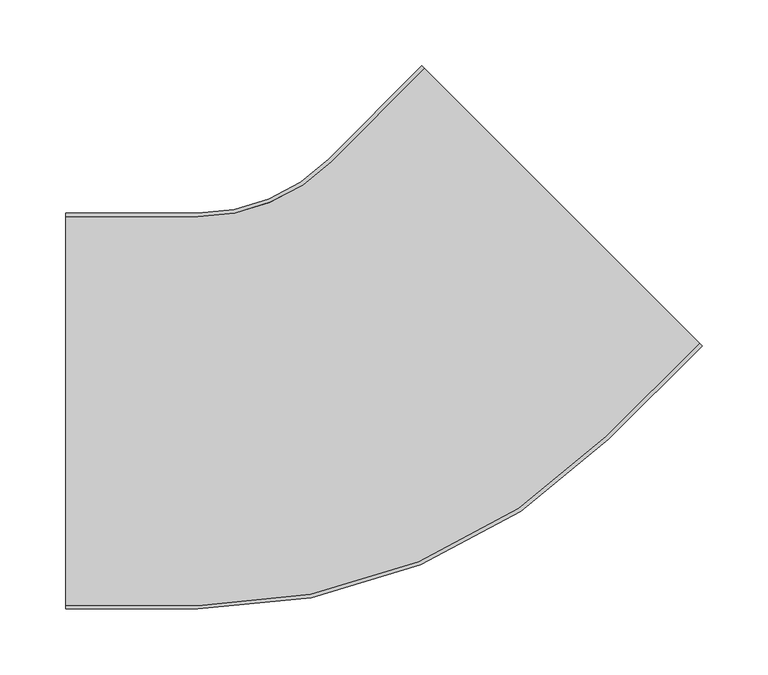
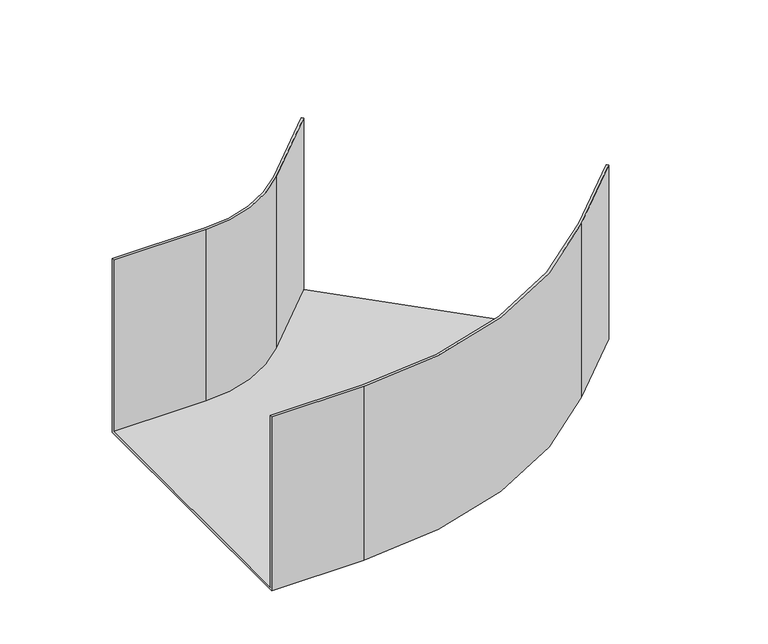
"""IFC4 building model written with IfcOpenShell, lengths in millimetres: cable carrier fitting geometry, BAKS_Elbow_KKZ : KKZC/KKZMC...H200."""

import ifcopenshell
import ifcopenshell.guid

model = None  # the IFC model being written
_history = None  # IfcOwnerHistory: only IFC2X3 demands one
_inside = {}  # id of a spatial element -> (the spatial element, [elements in it])
_under = {}  # id of a project, library or spatial element -> (it, [spatial elements below it])
_declared = {}  # id of a project -> (the project, [libraries it declares])
_typed = {}  # id of a type object -> (the type object, [elements of that type])
_made_of = {}  # id of a material, layer set ... -> (it, [elements and type objects made of it])


def new_model(schema):
    """Start an empty IFC model of exactly this schema.

    Asked for "IFC4X3", IfcOpenShell would pick the latest addendum, in which some entities
    have other attributes; the version numbers below select the first issue.
    IFC2X3 requires an IfcOwnerHistory on every rooted entity: one is made here for all.
    """
    global model, _history
    if schema == "IFC4X3":
        model = ifcopenshell.file(schema_version=(4, 3, 0, 0))
    else:
        model = ifcopenshell.file(schema=schema)
    _inside.clear()
    _under.clear()
    _declared.clear()
    _typed.clear()
    _made_of.clear()
    _history = None
    if model.schema == "IFC2X3":
        org = make("IfcOrganization", Name="unknown")
        user = make(
            "IfcPersonAndOrganization",
            ThePerson=make("IfcPerson", FamilyName="unknown"),
            TheOrganization=org,
        )
        app = make(
            "IfcApplication",
            ApplicationDeveloper=org,
            Version="unknown",
            ApplicationFullName="unknown",
            ApplicationIdentifier="unknown",
        )
        _history = make(
            "IfcOwnerHistory",
            OwningUser=user,
            OwningApplication=app,
            ChangeAction="ADDED",
            CreationDate=0,
        )
    return model


def make(cls, **values):
    """One entity of the class cls with the attributes given. An attribute that is None is left unset."""
    return model.create_entity(
        cls, **{name: value for name, value in values.items() if value is not None}
    )


def rooted(cls, **values):
    """An entity with a GlobalId (a new one), such as an element, a storey or a relation."""
    return make(cls, GlobalId=ifcopenshell.guid.new(), OwnerHistory=_history, **values)


def si_unit(unit_type, name, prefix=None):
    """IfcSIUnit, for example si_unit("LENGTHUNIT", "METRE", prefix="MILLI")."""
    return make("IfcSIUnit", UnitType=unit_type, Prefix=prefix, Name=name)


def assignment(units):
    """IfcUnitAssignment: the units of a project."""
    return None if units is None else make("IfcUnitAssignment", Units=units)


def point(xyz):
    """IfcCartesianPoint."""
    return None if xyz is None else make("IfcCartesianPoint", Coordinates=xyz)


def direction(xyz):
    """IfcDirection."""
    return None if xyz is None else make("IfcDirection", DirectionRatios=xyz)


def frame(location, z_axis=None, x_axis=None):
    """IfcAxis2Placement3D, a coordinate frame: its origin and axes. An axis left out is left unset."""
    return make(
        "IfcAxis2Placement3D",
        Location=point(location),
        Axis=direction(z_axis),
        RefDirection=direction(x_axis),
    )


def origin():
    """The frame at (0, 0, 0) with its axes left unset."""
    return frame((0.0, 0.0, 0.0))


def place(relative_to, where):
    """IfcLocalPlacement: puts the frame where relative to a parent placement (None: the world)."""
    return make(
        "IfcLocalPlacement", PlacementRelTo=relative_to, RelativePlacement=where
    )


def context(
    kind, dimensions, precision=None, world=None, true_north=None, identifier=None
):
    """IfcGeometricRepresentationContext, for example the 3D "Model" context."""
    return make(
        "IfcGeometricRepresentationContext",
        ContextIdentifier=identifier,
        ContextType=kind,
        CoordinateSpaceDimension=dimensions,
        Precision=precision,
        WorldCoordinateSystem=world,
        TrueNorth=true_north,
    )


def project(units=None, contexts=None):
    """IfcProject with its units and contexts."""
    return rooted(
        "IfcProject",
        Name="project",
        RepresentationContexts=contexts,
        UnitsInContext=assignment(units),
    )


def spatial(cls, under=None, at=None, **own):
    """A site, building, storey or space (cls), placed at a placement, below another one or the project."""
    s = rooted(cls, ObjectPlacement=at, **own)
    if under is not None:
        _under.setdefault(under.id(), (under, []))[1].append(s)
    return s


def polyline(points):
    """IfcPolyline through the points."""
    return make("IfcPolyline", Points=[point(p) for p in points])


def circle_curve(where, radius):
    """IfcCircle in the frame where."""
    return make("IfcCircle", Position=where, Radius=radius)


def shape(context_of_items, identifier, shape_type, items):
    """IfcShapeRepresentation: the items that make up one representation, for example the "Body"."""
    return make(
        "IfcShapeRepresentation",
        ContextOfItems=context_of_items,
        RepresentationIdentifier=identifier,
        RepresentationType=shape_type,
        Items=items,
    )


def source(mapping_origin, context_of_items, identifier, shape_type, items):
    """IfcRepresentationMap: a shape defined once, which mapped items show again and again."""
    return make(
        "IfcRepresentationMap",
        MappingOrigin=mapping_origin,
        MappedRepresentation=shape(context_of_items, identifier, shape_type, items),
    )


def transform(
    local_origin,
    x_axis=None,
    y_axis=None,
    z_axis=None,
    scale=None,
    scale2=None,
    scale3=None,
    uniform=True,
):
    """IfcCartesianTransformationOperator3D, or its non-uniform kind. x_axis, y_axis, z_axis: its Axis1, 2, 3."""
    if uniform:
        return make(
            "IfcCartesianTransformationOperator3D",
            Axis1=direction(x_axis),
            Axis2=direction(y_axis),
            LocalOrigin=point(local_origin),
            Scale=scale,
            Axis3=direction(z_axis),
        )
    return make(
        "IfcCartesianTransformationOperator3DnonUniform",
        Axis1=direction(x_axis),
        Axis2=direction(y_axis),
        LocalOrigin=point(local_origin),
        Scale=scale,
        Axis3=direction(z_axis),
        Scale2=scale2,
        Scale3=scale3,
    )


def mapped(mapping_source, mapping_target):
    """IfcMappedItem: shows the shape of a source again, moved by a transform."""
    return make(
        "IfcMappedItem", MappingSource=mapping_source, MappingTarget=mapping_target
    )


def made_of(thing, what):
    """Note that an element or type object is made of a material, layer set ...; save() writes the relation."""
    if what is not None:
        _made_of.setdefault(what.id(), (what, []))[1].append(thing)
    return thing


def element(
    cls,
    number,
    at=None,
    inside=None,
    cuts=None,
    type_object=None,
    material=None,
    context=None,
    identifier="Body",
    shape_type=None,
    held_by="IfcProductDefinitionShape",
    body=None,
    shapes=None,
    **own,
):
    """One element of the class cls, such as IfcWall. Its Tag is "e" and its number.

    at: its placement. inside: the storey or other place that contains it. cuts: it is an
    opening in that element (IfcRelVoidsElement). A single representation is given by context,
    identifier, shape_type and body (its items); several are given by shapes. held_by: the class
    of the entity that holds the representations. save() writes the other relations.
    """
    e = rooted(cls, Tag="e%d" % number, ObjectPlacement=at, **own)
    if body is not None:
        shapes = [shape(context, identifier, shape_type, body)]
    if shapes is not None:
        e.Representation = make(held_by, Representations=shapes)
    if inside is not None:
        _inside.setdefault(inside.id(), (inside, []))[1].append(e)
    if cuts is not None:
        rooted(
            "IfcRelVoidsElement", RelatingBuildingElement=cuts, RelatedOpeningElement=e
        )
    if type_object is not None:
        _typed.setdefault(type_object.id(), (type_object, []))[1].append(e)
    return made_of(e, material)


def aggregate(whole, parts):
    """IfcRelAggregates: a whole, such as a stair, and the parts it consists of."""
    return rooted("IfcRelAggregates", RelatingObject=whole, RelatedObjects=parts)


def save(model, path):
    """Write the relations noted so far, then the file.

    IfcRelAggregates (storeys below a building ...), IfcRelContainedInSpatialStructure (elements
    in a storey), IfcRelDefinesByType, IfcRelAssociatesMaterial and IfcRelDeclares: one each for
    every whole, place, type object, material and project.
    """
    for whole, parts in _under.values():
        aggregate(whole, parts)
    for where, things in _inside.values():
        rooted(
            "IfcRelContainedInSpatialStructure",
            RelatedElements=things,
            RelatingStructure=where,
        )
    for kind, things in _typed.values():
        rooted("IfcRelDefinesByType", RelatedObjects=things, RelatingType=kind)
    for what, things in _made_of.values():
        rooted("IfcRelAssociatesMaterial", RelatedObjects=things, RelatingMaterial=what)
    for by, libraries in _declared.values():
        rooted("IfcRelDeclares", RelatingContext=by, RelatedDefinitions=libraries)
    model.write(path)


def plane_surface(at):
    """IfcPlane: the flat surface through the origin of the frame at, square to its z axis."""
    return make("IfcPlane", Position=at)


def cylinder_surface(at, radius):
    """IfcCylindricalSurface: all points at the distance radius from the z axis of the frame at."""
    return make("IfcCylindricalSurface", Position=at, Radius=radius)


def revolved_surface(curve, axis_point, axis_direction):
    """IfcSurfaceOfRevolution: the curve turned about the line through axis_point along axis_direction."""
    return make(
        "IfcSurfaceOfRevolution",
        SweptCurve=make("IfcArbitraryOpenProfileDef", ProfileType="CURVE", Curve=curve),
        AxisPosition=make("IfcAxis1Placement", Location=point(axis_point), Axis=direction(axis_direction)),
    )


def advanced_brep(points, edges, surfaces, faces):
    """IfcAdvancedBrep: a solid bounded by faces that lie on surfaces and meet in shared edges.

    An edge is (start, end): straight between two places in points (the first is 0);
    or (start, end, curve); or (start, end, curve, False) where it runs against its curve.
    A face is (place in surfaces, loops), or (place, loops, False) where it looks against
    its surface's normal. A loop lists edges by number (the first is 1), with a minus sign
    where the edge is run from its end to its start. The first loop is the outer one.
    """
    corners = [point(p) for p in points]
    vertices = [make("IfcVertexPoint", VertexGeometry=c) for c in corners]
    made = []
    for start, end, *more in edges:
        made.append(
            make(
                "IfcEdgeCurve",
                EdgeStart=vertices[start],
                EdgeEnd=vertices[end],
                EdgeGeometry=more[0] if more else make("IfcPolyline", Points=[corners[start], corners[end]]),
                SameSense=more[1] if len(more) > 1 else True,
            )
        )
    hull = []
    for where, loops, *sense in faces:
        bounds = []
        for j, loop in enumerate(loops):
            ring = [make("IfcOrientedEdge", EdgeElement=made[abs(k) - 1], Orientation=k > 0) for k in loop]
            bounds.append(
                make(
                    "IfcFaceOuterBound" if j == 0 else "IfcFaceBound",
                    Bound=make("IfcEdgeLoop", EdgeList=ring),
                    Orientation=True,
                )
            )
        hull.append(make("IfcAdvancedFace", Bounds=bounds, FaceSurface=surfaces[where], SameSense=sense[0] if sense else True))
    return make("IfcAdvancedBrep", Outer=make("IfcClosedShell", CfsFaces=hull))


def cable_carrier_fitting_91e97af7(model_context):
    return source(origin(), model_context, "Body", "AdvancedBrep", [
        advanced_brep(
        [(-220.1219331, -150.0, -100.0), (-220.1219331, -150.0, 100.0), (-220.1219331, -147.46, 100.0), (-220.1219331, -147.46, -97.46), (-220.1219331, 147.46, -97.46), (-220.1219331, 147.46, 100.0), (-220.1219331, 150.0, 100.0), (-220.1219331, 150.0, -100.0), (261.7157288, 49.5836944, -100.0), (49.5836944, 261.7157288, -100.0), (49.5836944, 261.7157288, 100.0), (51.3797456, 259.9196775, 100.0), (51.3797456, 259.9196775, -97.46), (259.9196775, 51.3797456, -97.46), (259.9196775, 51.3797456, 100.0), (261.7157288, 49.5836944, 100.0), (-120.1219331, -150.0, -100.0), (-120.1219331, -150.0, 100.0), (191.0050506, -21.1269837, 100.0), (189.2089994, -19.3309325, 100.0), (-120.1219331, -147.46, 100.0), (-120.1219331, -147.46, -97.46), (189.2089994, -19.3309325, -97.46), (-19.3309325, 189.2089994, -97.46), (-120.1219331, 147.46, -97.46), (-120.1219331, 147.46, 100.0), (-19.3309325, 189.2089994, 100.0), (-21.1269837, 191.0050506, 100.0), (-120.1219331, 150.0, 100.0), (-120.1219331, 150.0, -100.0), (-21.1269837, 191.0050506, -100.0), (191.0050506, -21.1269837, -100.0)],
        [
            (0, 1),
            (1, 2),
            (2, 3),
            (3, 4),
            (4, 5),
            (5, 6),
            (6, 7),
            (7, 0),
            (8, 9),
            (9, 10),
            (10, 11),
            (11, 12),
            (12, 13),
            (13, 14),
            (14, 15),
            (15, 8),
            (0, 16),
            (16, 17),
            (17, 1),
            (17, 18, circle_curve(frame((-120.1219331, 290.0, 100.0), z_axis=(0.0, 0.0, 1.0), x_axis=(0.0, -1.0, 0.0)), 440.0)),
            (18, 15),
            (14, 19),
            (19, 20, circle_curve(frame((-120.1219331, 290.0, 100.0), z_axis=(0.0, 0.0, -1.0), x_axis=(0.0, -1.0, 0.0)), 437.46)),
            (20, 2),
            (20, 21),
            (21, 3),
            (21, 22, circle_curve(frame((-120.1219331, 290.0, -97.46), z_axis=(0.0, 0.0, 1.0), x_axis=(0.0, -1.0, 0.0)), 437.46)),
            (22, 13),
            (12, 23),
            (23, 24, circle_curve(frame((-120.1219331, 290.0, -97.46), z_axis=(0.0, 0.0, -1.0), x_axis=(0.0, -1.0, 0.0)), 142.54)),
            (24, 4),
            (24, 25),
            (25, 5),
            (25, 26, circle_curve(frame((-120.1219331, 290.0, 100.0), z_axis=(0.0, 0.0, 1.0), x_axis=(0.0, -1.0, 0.0)), 142.54)),
            (26, 11),
            (10, 27),
            (27, 28, circle_curve(frame((-120.1219331, 290.0, 100.0), z_axis=(0.0, 0.0, -1.0), x_axis=(0.0, -1.0, 0.0)), 140.0)),
            (28, 6),
            (28, 29),
            (29, 7),
            (29, 30, circle_curve(frame((-120.1219331, 290.0, -100.0), z_axis=(0.0, 0.0, 1.0), x_axis=(0.0, -1.0, 0.0)), 140.0)),
            (30, 9),
            (8, 31),
            (31, 16, circle_curve(frame((-120.1219331, 290.0, -100.0), z_axis=(0.0, 0.0, -1.0), x_axis=(0.0, -1.0, 0.0)), 440.0)),
            (31, 18),
            (19, 22),
            (23, 26),
            (27, 30),
        ],
        [
            plane_surface(frame((-220.1219331, 0.0, 0.0), z_axis=(-1.0, 0.0, 0.0), x_axis=(0.0, 0.0, 1.0))),
            plane_surface(frame((155.6497116, 155.6497116, 0.0), z_axis=(0.7071067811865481, 0.7071067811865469, 0.0), x_axis=(0.0, 0.0, 1.0))),
            plane_surface(frame((-220.1219331, -150.0, -100.0), z_axis=(0.0, -1.0, 0.0), x_axis=(1.0, 0.0, 0.0))),
            plane_surface(frame((-220.1219331, -150.0, 100.0), z_axis=(0.0, 0.0, 1.0), x_axis=(1.0, 0.0, 0.0))),
            plane_surface(frame((-220.1219331, -147.46, 100.0), z_axis=(0.0, 1.0, 0.0), x_axis=(1.0, 0.0, 0.0))),
            plane_surface(frame((-220.1219331, -147.46, -97.46), z_axis=(0.0, 0.0, 1.0), x_axis=(1.0, 0.0, 0.0))),
            plane_surface(frame((-220.1219331, 147.46, -97.46), z_axis=(0.0, -1.0, 0.0), x_axis=(1.0, 0.0, 0.0))),
            plane_surface(frame((-220.1219331, 147.46, 100.0), z_axis=(0.0, 0.0, 1.0), x_axis=(1.0, 0.0, 0.0))),
            plane_surface(frame((-220.1219331, 150.0, 100.0), z_axis=(0.0, 1.0, 0.0), x_axis=(1.0, 0.0, 0.0))),
            plane_surface(frame((-220.1219331, 150.0, -100.0), z_axis=(0.0, 0.0, -1.0), x_axis=(1.0, 0.0, 0.0))),
            cylinder_surface(frame((-120.1219331, 290.0, 0.0), z_axis=(0.0, 0.0, 1.0), x_axis=(0.0, -1.0, 0.0)), 440.0),
            revolved_surface(polyline([(-120.1219331, -147.45999999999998, 100.0), (-120.1219331, -147.45999999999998, -97.46)]), (-120.1219331, 290.0, 0.0), (0.0, 0.0, 1.0)),
            cylinder_surface(frame((-120.1219331, 290.0, 0.0), z_axis=(0.0, 0.0, 1.0), x_axis=(0.0, -1.0, 0.0)), 142.54),
            revolved_surface(polyline([(-120.1219331, 150.0, 100.0), (-120.1219331, 150.0, -100.0)]), (-120.1219331, 290.0, 0.0), (0.0, 0.0, 1.0)),
            plane_surface(frame((191.0050506, -21.1269837, -100.0), z_axis=(0.7071067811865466, -0.7071067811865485, 0.0), x_axis=(0.7071067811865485, 0.7071067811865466, 0.0))),
            plane_surface(frame((189.2089994, -19.3309325, 100.0), z_axis=(-0.7071067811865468, 0.7071067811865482, 0.0), x_axis=(0.7071067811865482, 0.7071067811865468, 0.0))),
            plane_surface(frame((-19.3309325, 189.2089994, -97.46), z_axis=(0.707106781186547, -0.707106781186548, 0.0), x_axis=(0.707106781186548, 0.707106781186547, 0.0))),
            plane_surface(frame((-21.1269837, 191.0050506, 100.0), z_axis=(-0.7071067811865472, 0.7071067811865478, 0.0), x_axis=(0.7071067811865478, 0.7071067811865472, 0.0))),
        ],
        [
            (0, [[1, 2, 3, 4, 5, 6, 7, 8]]),
            (1, [[9, 10, 11, 12, 13, 14, 15, 16]]),
            (2, [[-1, 17, 18, 19]]),
            (3, [[-2, -19, 20, 21, -15, 22, 23, 24]]),
            (4, [[-3, -24, 25, 26]]),
            (5, [[-4, -26, 27, 28, -13, 29, 30, 31]]),
            (6, [[-5, -31, 32, 33]]),
            (7, [[-6, -33, 34, 35, -11, 36, 37, 38]]),
            (8, [[-7, -38, 39, 40]]),
            (9, [[-8, -40, 41, 42, -9, 43, 44, -17]]),
            (10, [[-20, -18, -44, 45]]),
            (11, [[-27, -25, -23, 46]]),
            (12, [[-34, -32, -30, 47]]),
            (13, [[-41, -39, -37, 48]]),
            (14, [[-45, -43, -16, -21]]),
            (15, [[-46, -22, -14, -28]]),
            (16, [[-47, -29, -12, -35]]),
            (17, [[-48, -36, -10, -42]]),
        ],
    ),
    ])


if __name__ == "__main__":
    model = new_model("IFC4")
    model_context = context("Model", 3, world=origin())
    ifc_project = project(units=[si_unit("LENGTHUNIT", "METRE", prefix="MILLI")], contexts=[model_context])
    site = spatial("IfcSite", under=ifc_project)
    building = spatial("IfcBuilding", under=site)
    placement = place(None, origin())
    cable_carrier_fitting_shape = cable_carrier_fitting_91e97af7(model_context)
    element("IfcCableCarrierFitting", 1, ObjectType="BAKS_Elbow_KKZ : KKZC/KKZMC...H200", at=placement, inside=building, context=model_context, shape_type="MappedRepresentation", body=[
        mapped(cable_carrier_fitting_shape, transform((0.0, 0.0, 0.0), x_axis=(1.0, 0.0, 0.0), y_axis=(0.0, 1.0, 0.0), z_axis=(0.0, 0.0, 1.0))),
    ])
    save(model, "model.ifc")
